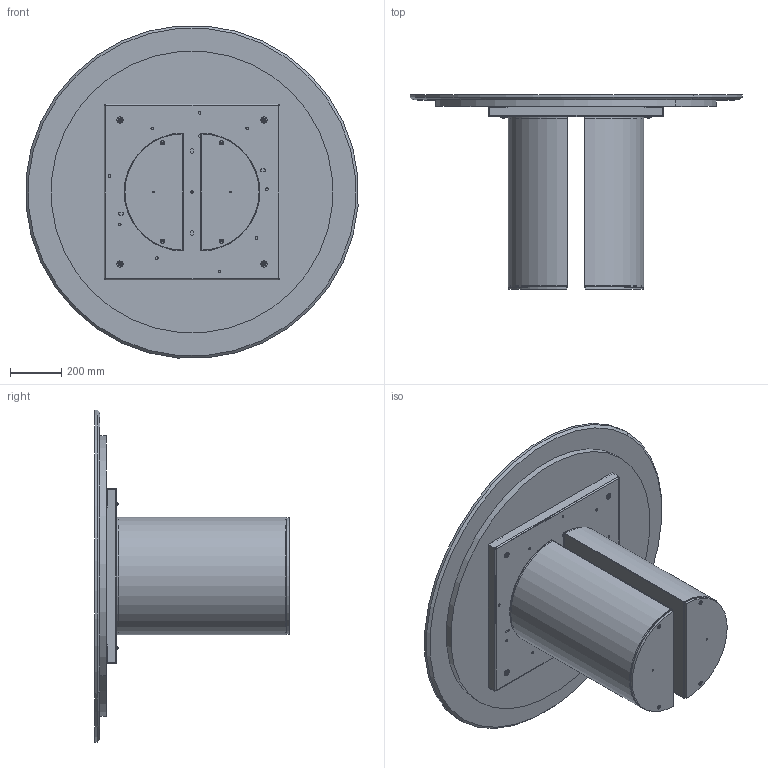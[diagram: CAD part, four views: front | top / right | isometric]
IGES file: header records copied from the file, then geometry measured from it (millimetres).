
Start section: SolidWorks IGES file using analytic representation for surfaces
Global section: file name: Y:\eforma\TECNICO\SOLIDWORKS\E-FORMA\1-TAVOLI\DORA\02 parts\DR05M.IGS; native system: SolidWorks 2022; preprocessor: SolidWorks 2022; author: eforma.tech; date: 240806.145833; units: millimetre
Bounding box: 1295.05 x 759 x 1295.05 mm (x, y, z)
Volume: 57946642.2 mm3; surface area: 9753249.3 mm2
Topology: 29 solids, 29 shells, 876 faces, 2168 edges, 1337 vertices
Faces by surface type: revolution 468, plane 408
